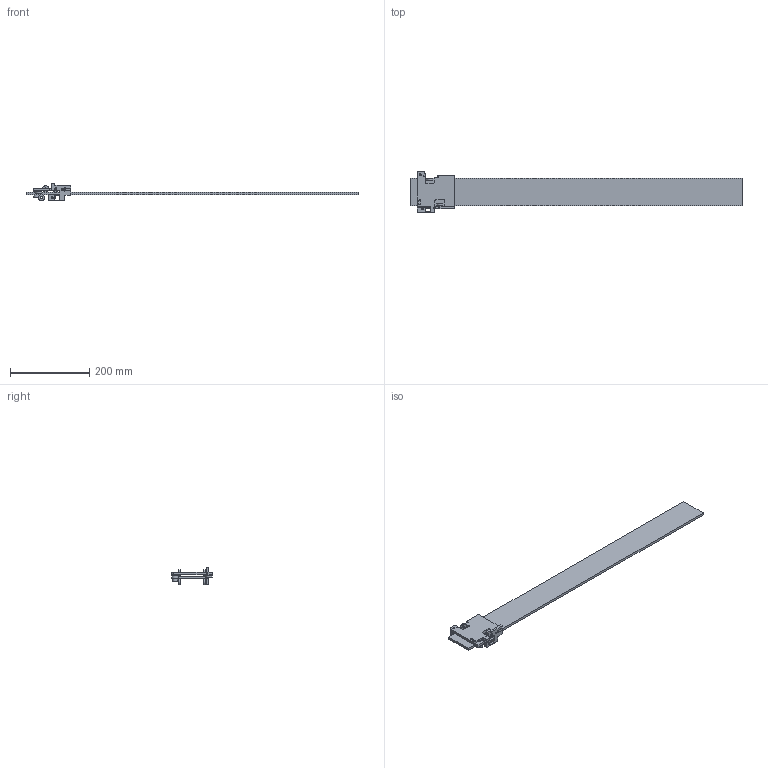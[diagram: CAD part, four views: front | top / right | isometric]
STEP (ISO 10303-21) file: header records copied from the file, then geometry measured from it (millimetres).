
FILE_DESCRIPTION(/* description */ (''),/* implementation_level */ '2;1');
FILE_NAME(/* name */ 'D:/dropbox/CBA/projects/machines/rctgantries/cad/dev/n17/RCTN17-025-01875-ALU v1.step',/* time_stamp */ '2019-01-04T18:27:07-05:00',/* author */ ('jakerobertread@gmail.com'),/* organization */ (''),/* preprocessor_version */ 'ST-DEVELOPER v17.2',/* originating_system */ 'Autodesk Translation Framework v7.6.0.251',/* authorisation */ '');
FILE_SCHEMA (('AUTOMOTIVE_DESIGN { 1 0 10303 214 3 1 1 }'));
Length unit declared in the file: millimetre
Products named in the file (1): RCTN17-025-01875-ALU
Bounding box: 836 x 102 x 45.2 mm (x, y, z)
Volume: 431911.9 mm3; surface area: 156697.9 mm2
Topology: 10 solids, 10 shells, 135 faces, 345 edges, 230 vertices
Faces by surface type: plane 72, cylinder 63
Full cylindrical faces by diameter (mm): 2.5 x2, 3.25 x1, 5 x10, 13 x1, 16 x6
Entity records: 4213 total; most frequent: DIRECTION 743, CARTESIAN_POINT 711, ORIENTED_EDGE 690, EDGE_CURVE 345, AXIS2_PLACEMENT_3D 262, VERTEX_POINT 230, LINE 219, VECTOR 219
